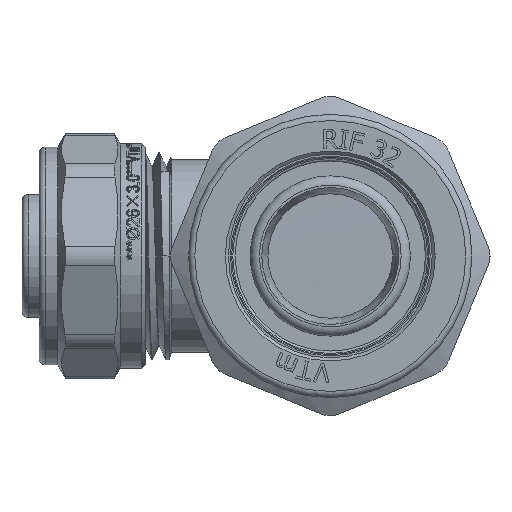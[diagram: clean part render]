
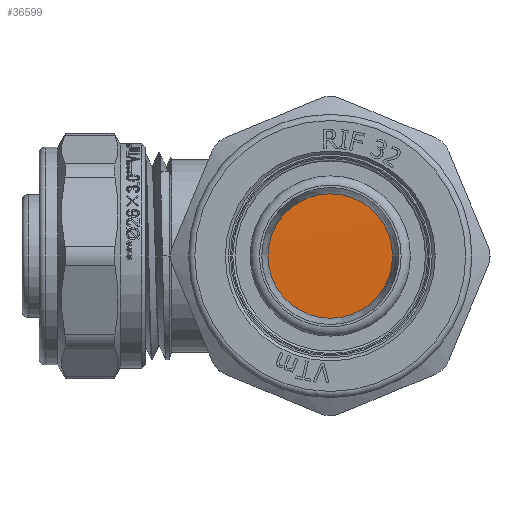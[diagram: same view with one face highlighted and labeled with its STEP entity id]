
A CAD part, left-side view. The second image highlights one B-rep face of the part: STEP entity #36599.
In plain terms, the highlighted cylindrical face has radius 21 mm (diameter 42 mm), a full revolution.
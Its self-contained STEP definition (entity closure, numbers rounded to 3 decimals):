
#2903=FACE_OUTER_BOUND('',#4972,.T.);
#4972=EDGE_LOOP('',(#24603,#24604,#24605));
#7222=B_SPLINE_CURVE_WITH_KNOTS('',3,(#47070,#47071,#47072,#47073,#47074,
#47075,#47076,#47077,#47078,#47079,#47080,#47081,#47082,#47083,#47084,#47085,
#47086),.UNSPECIFIED.,.F.,.F.,(4,1,1,1,1,1,1,1,1,1,1,1,1,1,4),(37.699,
37.812,38.309,38.807,39.304,39.801,
40.298,40.795,41.292,41.789,42.286,
42.783,43.28,43.777,43.982),
 .UNSPECIFIED.);
#9695=LINE('',#46554,#12191);
#9709=LINE('',#47069,#12205);
#12191=VECTOR('',#40467,21.);
#12205=VECTOR('',#40515,21.);
#14688=VERTEX_POINT('',#46552);
#14689=VERTEX_POINT('',#46553);
#14721=VERTEX_POINT('',#47068);
#18661=EDGE_CURVE('',#14688,#14689,#9695,.T.);
#18704=EDGE_CURVE('',#14721,#14689,#9709,.T.);
#18705=EDGE_CURVE('',#14721,#14688,#7222,.T.);
#24603=ORIENTED_EDGE('',*,*,#18661,.T.);
#24604=ORIENTED_EDGE('',*,*,#18704,.F.);
#24605=ORIENTED_EDGE('',*,*,#18705,.T.);
#36339=CYLINDRICAL_SURFACE('',#38692,21.);
#36599=ADVANCED_FACE('',(#2903),#36339,.T.);
#38692=AXIS2_PLACEMENT_3D('',#47067,#40513,#40514);
#40467=DIRECTION('',(-1.,0.,0.));
#40513=DIRECTION('center_axis',(-1.,0.,0.));
#40514=DIRECTION('ref_axis',(0.,-1.,0.));
#40515=DIRECTION('',(1.,0.,0.));
#46552=CARTESIAN_POINT('',(-25.5,21.,0.));
#46553=CARTESIAN_POINT('',(-26.9,21.,0.));
#46554=CARTESIAN_POINT('',(-29.626,21.,0.));
#47067=CARTESIAN_POINT('Origin',(-29.626,0.,
0.));
#47068=CARTESIAN_POINT('',(-27.,21.,0.));
#47069=CARTESIAN_POINT('',(-29.626,21.,0.));
#47070=CARTESIAN_POINT('Ctrl Pts',(-27.,21.,0.001));
#47071=CARTESIAN_POINT('Ctrl Pts',(-26.991,21.001,0.794));
#47072=CARTESIAN_POINT('Ctrl Pts',(-26.942,20.763,5.065));
#47073=CARTESIAN_POINT('Ctrl Pts',(-26.854,17.933,12.543));
#47074=CARTESIAN_POINT('Ctrl Pts',(-26.736,9.782,19.577));
#47075=CARTESIAN_POINT('Ctrl Pts',(-26.617,-0.737,
21.872));
#47076=CARTESIAN_POINT('Ctrl Pts',(-26.498,-11.077,
18.874));
#47077=CARTESIAN_POINT('Ctrl Pts',(-26.38,-18.737,
11.308));
#47078=CARTESIAN_POINT('Ctrl Pts',(-26.261,-21.861,
1.005));
#47079=CARTESIAN_POINT('Ctrl Pts',(-26.142,-19.695,-9.541));
#47080=CARTESIAN_POINT('Ctrl Pts',(-26.024,-12.762,-17.778));
#47081=CARTESIAN_POINT('Ctrl Pts',(-25.905,-2.74,
-21.712));
#47082=CARTESIAN_POINT('Ctrl Pts',(-25.786,7.945,-20.392));
#47083=CARTESIAN_POINT('Ctrl Pts',(-25.668,16.707,-14.136));
#47084=CARTESIAN_POINT('Ctrl Pts',(-25.572,20.502,-6.353));
#47085=CARTESIAN_POINT('Ctrl Pts',(-25.516,20.999,-1.437));
#47086=CARTESIAN_POINT('Ctrl Pts',(-25.5,20.998,0.));
